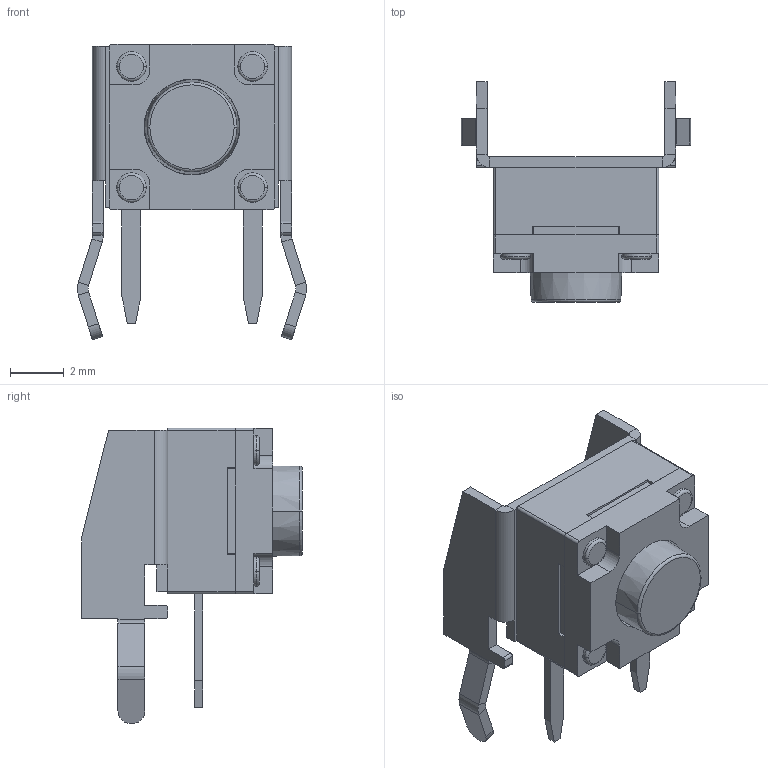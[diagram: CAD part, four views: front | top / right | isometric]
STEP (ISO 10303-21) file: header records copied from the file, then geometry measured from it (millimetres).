
FILE_DESCRIPTION((''),'2;1');
FILE_NAME('JQC6060O-C0901-01G-101_ASM','2026-05-13T10:03:54',('Admin'),(''),'CREO PARAMETRIC BY PTC INC, 2019224','CREO PARAMETRIC BY PTC INC, 2019224','');
FILE_SCHEMA(('AUTOMOTIVE_DESIGN { 1 0 10303 214 1 1 1 1 }'));
Length unit declared in the file: millimetre
Products named in the file (4): JQC6060O-C0901-01G-101_05; JQC6060O-C0901-01G-101_06; JQC6060O-C0901-01G-101_07; JQC6060O-C0901-01G-101_ASM
Assembly tree (3 placements, depth 2):
  JQC6060O-C0901-01G-101_ASM
    JQC6060O-C0901-01G-101_05
    JQC6060O-C0901-01G-101_06
    JQC6060O-C0901-01G-101_07
Bounding box: 8.52 x 8.2 x 10.97 mm (x, y, z)
Volume: 183.5 mm3; surface area: 518.2 mm2
Topology: 4 solids, 4 shells, 197 faces, 486 edges, 318 vertices
Faces by surface type: plane 133, cylinder 52, torus 10, cone 2
Entity records: 6966 total; most frequent: DIRECTION 1040, CARTESIAN_POINT 1007, ORIENTED_EDGE 952, EDGE_CURVE 476, VECTOR 358, LINE 358, AXIS2_PLACEMENT_3D 341, PRESENTATION_STYLE_ASSIGNMENT 313
